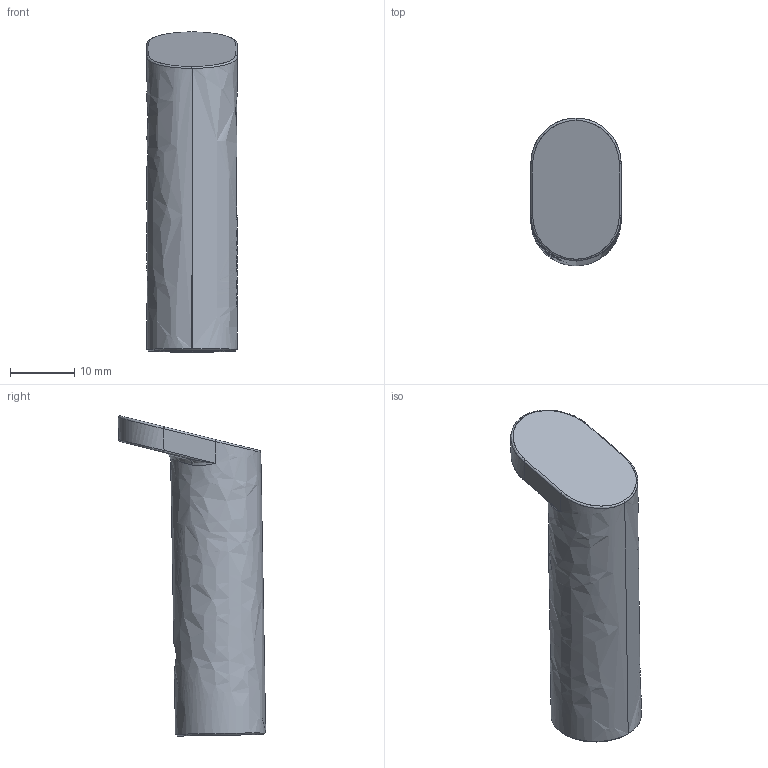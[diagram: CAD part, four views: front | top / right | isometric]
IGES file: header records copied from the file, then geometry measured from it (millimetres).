
Start section: SolidWorks IGES file using NURBS representation for surfaces
Global section: file name: G:\4- VARIOS\9 - Web Files\AA RUTH\MICRA\473001###-W.IGS; native system: SolidWorks 2016; preprocessor: SolidWorks 2016; author: vegrut01; date: 210224.125510; units: millimetre
Bounding box: 14 x 22.86 x 49.66 mm (x, y, z)
Surface area: 4002.2 mm2 (no closed solid volume)
Topology: 0 solids, 0 shells, 182 faces, 2592 edges, 3057 vertices
Faces by surface type: bspline 182
